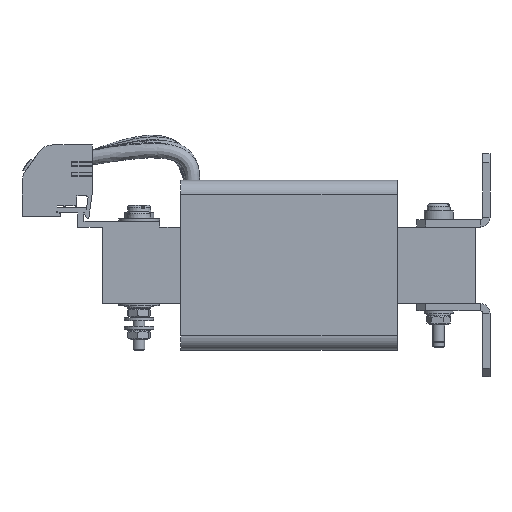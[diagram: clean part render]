
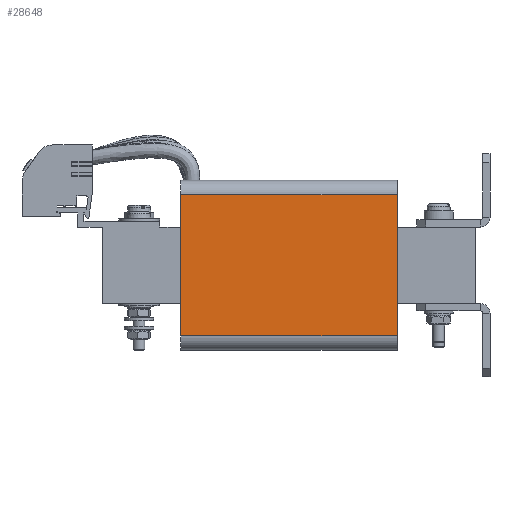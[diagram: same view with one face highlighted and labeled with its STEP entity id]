
A CAD part, left-side view. The second image highlights one B-rep face of the part: STEP entity #28648.
In plain terms, the highlighted planar face has unit normal (-1, 0, 0).
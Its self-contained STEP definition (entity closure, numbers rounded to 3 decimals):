
#762=LINE('',#41519,#3594);
#763=LINE('',#41525,#3595);
#764=LINE('',#41526,#3596);
#765=LINE('',#41527,#3597);
#3594=VECTOR('',#33511,10.);
#3595=VECTOR('',#33518,10.);
#3596=VECTOR('',#33519,10.);
#3597=VECTOR('',#33520,10.);
#6982=FACE_OUTER_BOUND('',#8645,.T.);
#8645=EDGE_LOOP('',(#18626,#18627,#18628,#18629));
#11429=VERTEX_POINT('',#41517);
#11430=VERTEX_POINT('',#41518);
#11431=VERTEX_POINT('',#41523);
#11432=VERTEX_POINT('',#41524);
#14250=EDGE_CURVE('',#11429,#11430,#762,.T.);
#14253=EDGE_CURVE('',#11431,#11432,#763,.T.);
#14254=EDGE_CURVE('',#11429,#11431,#764,.T.);
#14255=EDGE_CURVE('',#11432,#11430,#765,.T.);
#18626=ORIENTED_EDGE('',*,*,#14253,.F.);
#18627=ORIENTED_EDGE('',*,*,#14254,.F.);
#18628=ORIENTED_EDGE('',*,*,#14250,.T.);
#18629=ORIENTED_EDGE('',*,*,#14255,.F.);
#25825=PLANE('',#30408);
#28648=ADVANCED_FACE('',(#6982),#25825,.T.);
#30408=AXIS2_PLACEMENT_3D('',#41522,#33516,#33517);
#33511=DIRECTION('',(0.,-1.,0.));
#33516=DIRECTION('center_axis',(-1.,0.,0.));
#33517=DIRECTION('ref_axis',(0.,0.,1.));
#33518=DIRECTION('',(0.,-1.,0.));
#33519=DIRECTION('',(0.,0.,1.));
#33520=DIRECTION('',(0.,0.,-1.));
#41517=CARTESIAN_POINT('',(-74.6,36.95,-24.08));
#41518=CARTESIAN_POINT('',(-74.6,-36.95,-24.08));
#41519=CARTESIAN_POINT('',(-74.6,0.,-24.08));
#41522=CARTESIAN_POINT('Origin',(-74.6,0.,-24.08));
#41523=CARTESIAN_POINT('',(-74.6,36.95,24.08));
#41524=CARTESIAN_POINT('',(-74.6,-36.95,24.08));
#41525=CARTESIAN_POINT('',(-74.6,0.,24.08));
#41526=CARTESIAN_POINT('',(-74.6,36.95,24.08));
#41527=CARTESIAN_POINT('',(-74.6,-36.95,24.08));
